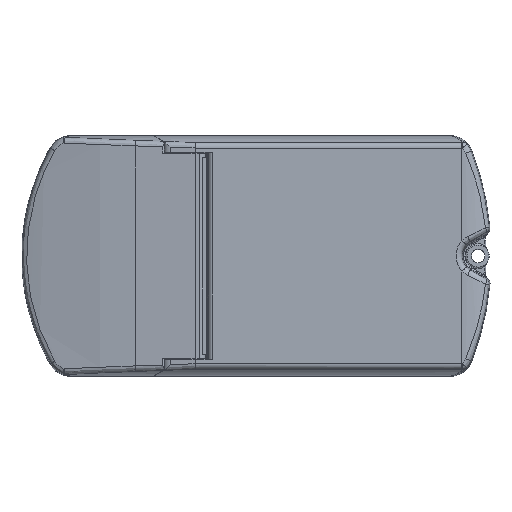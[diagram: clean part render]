
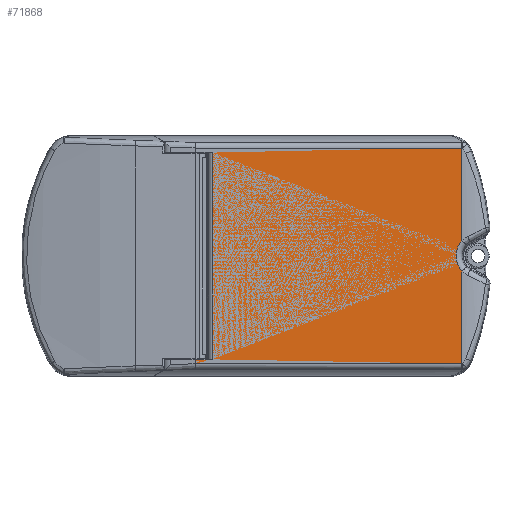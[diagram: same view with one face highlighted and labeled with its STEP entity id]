
A CAD part, top view. The second image highlights one B-rep face of the part: STEP entity #71868.
In plain terms, the highlighted planar face has unit normal (0, 0, 1).
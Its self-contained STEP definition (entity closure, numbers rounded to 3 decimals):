
#71584=DIRECTION('',(1.,0.,0.));
#71585=VECTOR('',#71584,90.7);
#71586=CARTESIAN_POINT('',(-96.2,36.75,
34.));
#71587=LINE('',#71586,#71585);
#71588=DIRECTION('',(0.,-1.,0.));
#71589=VECTOR('',#71588,31.603);
#71590=CARTESIAN_POINT('',(-5.5,36.75,
34.));
#71591=LINE('',#71590,#71589);
#71592=CARTESIAN_POINT('',(0.,0.,34.));
#71593=DIRECTION('',(0.,0.,1.));
#71594=DIRECTION('',(-0.73,0.683,0.));
#71595=AXIS2_PLACEMENT_3D('',#71592,#71593,#71594);
#71597=DIRECTION('',(0.,-1.,0.));
#71598=VECTOR('',#71597,31.603);
#71599=CARTESIAN_POINT('',(-5.5,-5.147,34.));
#71600=LINE('',#71599,#71598);
#71601=DIRECTION('',(-1.,0.,0.));
#71602=VECTOR('',#71601,90.7);
#71603=CARTESIAN_POINT('',(-5.5,-36.75,
34.));
#71604=LINE('',#71603,#71602);
#71605=DIRECTION('',(0.,1.,0.));
#71606=VECTOR('',#71605,1.458);
#71607=CARTESIAN_POINT('',(-96.2,-36.75,
34.));
#71608=LINE('',#71607,#71606);
#71609=DIRECTION('',(1.,0.,0.));
#71610=VECTOR('',#71609,5.252);
#71611=CARTESIAN_POINT('',(-96.2,-35.292,34.));
#71612=LINE('',#71611,#71610);
#71613=CARTESIAN_POINT('',(-90.948,-35.292,34.));
#71614=CARTESIAN_POINT('',(-90.916,-35.292,34.));
#71615=CARTESIAN_POINT('',(-90.852,-35.289,
34.));
#71616=CARTESIAN_POINT('',(-90.758,-35.277,
34.));
#71617=CARTESIAN_POINT('',(-90.663,-35.26,
34.));
#71618=CARTESIAN_POINT('',(-90.568,-35.24,
34.));
#71619=CARTESIAN_POINT('',(-90.473,-35.217,
34.));
#71620=CARTESIAN_POINT('',(-90.408,-35.201,
34.));
#71621=CARTESIAN_POINT('',(-90.376,-35.193,34.));
#71623=DIRECTION('',(0.,1.,0.));
#71624=VECTOR('',#71623,70.386);
#71625=CARTESIAN_POINT('',(-90.376,-35.193,34.));
#71626=LINE('',#71625,#71624);
#71627=CARTESIAN_POINT('',(-90.376,35.193,34.));
#71628=CARTESIAN_POINT('',(-90.43,35.206,
34.));
#71629=CARTESIAN_POINT('',(-90.536,35.233,
34.));
#71630=CARTESIAN_POINT('',(-90.684,35.265,
34.));
#71631=CARTESIAN_POINT('',(-90.822,35.286,
34.));
#71632=CARTESIAN_POINT('',(-90.907,35.292,34.));
#71633=CARTESIAN_POINT('',(-90.948,35.292,34.));
#71635=DIRECTION('',(-1.,0.,0.));
#71636=VECTOR('',#71635,5.252);
#71637=CARTESIAN_POINT('',(-90.948,35.292,34.));
#71638=LINE('',#71637,#71636);
#71639=DIRECTION('',(0.,1.,0.));
#71640=VECTOR('',#71639,1.458);
#71641=CARTESIAN_POINT('',(-96.2,35.292,34.));
#71642=LINE('',#71641,#71640);
#71650=CARTESIAN_POINT('',(-5.5,36.75,
34.));
#71724=CARTESIAN_POINT('',(-96.2,-36.75,
34.));
#71726=CARTESIAN_POINT('',(-5.5,-36.75,
34.));
#71799=CARTESIAN_POINT('',(-5.5,-5.147,34.));
#71800=CARTESIAN_POINT('',(-5.5,5.147,34.));
#71801=VERTEX_POINT('',#71799);
#71802=VERTEX_POINT('',#71800);
#71815=CARTESIAN_POINT('',(-90.948,35.292,34.));
#71816=CARTESIAN_POINT('',(-96.2,35.292,34.));
#71817=VERTEX_POINT('',#71815);
#71818=VERTEX_POINT('',#71816);
#71819=CARTESIAN_POINT('',(-96.2,-35.292,34.));
#71820=CARTESIAN_POINT('',(-90.948,-35.292,34.));
#71821=VERTEX_POINT('',#71819);
#71822=VERTEX_POINT('',#71820);
#71823=CARTESIAN_POINT('',(-90.376,35.193,34.));
#71824=CARTESIAN_POINT('',(-90.376,-35.193,34.));
#71825=VERTEX_POINT('',#71823);
#71826=VERTEX_POINT('',#71824);
#71827=VERTEX_POINT('',#71724);
#71829=VERTEX_POINT('',#71726);
#71831=VERTEX_POINT('',#71650);
#71833=CARTESIAN_POINT('',(-96.2,36.75,
34.));
#71835=VERTEX_POINT('',#71833);
#71837=CARTESIAN_POINT('',(-72.5,0.,34.));
#71838=DIRECTION('',(0.,0.,1.));
#71839=DIRECTION('',(-1.,0.,0.));
#71840=AXIS2_PLACEMENT_3D('',#71837,#71838,#71839);
#71841=PLANE('',#71840);
#71843=ORIENTED_EDGE('',*,*,#71842,.T.);
#71845=ORIENTED_EDGE('',*,*,#71844,.T.);
#71847=ORIENTED_EDGE('',*,*,#71846,.T.);
#71849=ORIENTED_EDGE('',*,*,#71848,.T.);
#71851=ORIENTED_EDGE('',*,*,#71850,.T.);
#71853=ORIENTED_EDGE('',*,*,#71852,.T.);
#71855=ORIENTED_EDGE('',*,*,#71854,.T.);
#71857=ORIENTED_EDGE('',*,*,#71856,.T.);
#71859=ORIENTED_EDGE('',*,*,#71858,.T.);
#71861=ORIENTED_EDGE('',*,*,#71860,.T.);
#71863=ORIENTED_EDGE('',*,*,#71862,.T.);
#71865=ORIENTED_EDGE('',*,*,#71864,.T.);
#71866=EDGE_LOOP('',(#71843,#71845,#71847,#71849,#71851,#71853,#71855,#71857,
#71859,#71861,#71863,#71865));
#71867=FACE_OUTER_BOUND('',#71866,.F.);
#71868=ADVANCED_FACE('',(#71867),#71841,.T.);
#71596=CIRCLE('',#71595,7.533);
#71622=B_SPLINE_CURVE_WITH_KNOTS('',3,(#71613,#71614,#71615,#71616,#71617,
#71618,#71619,#71620,#71621),.UNSPECIFIED.,.F.,.F.,(4,1,1,1,1,1,4),(0.,
0.167,0.333,0.5,0.667,0.833,
1.),.UNSPECIFIED.);
#71634=B_SPLINE_CURVE_WITH_KNOTS('',3,(#71627,#71628,#71629,#71630,#71631,
#71632,#71633),.UNSPECIFIED.,.F.,.F.,(4,1,1,1,4),(0.,0.25,0.5,0.75,
1.),.UNSPECIFIED.);
#71842=EDGE_CURVE('',#71835,#71831,#71587,.T.);
#71844=EDGE_CURVE('',#71831,#71802,#71591,.T.);
#71846=EDGE_CURVE('',#71802,#71801,#71596,.T.);
#71848=EDGE_CURVE('',#71801,#71829,#71600,.T.);
#71850=EDGE_CURVE('',#71829,#71827,#71604,.T.);
#71852=EDGE_CURVE('',#71827,#71821,#71608,.T.);
#71854=EDGE_CURVE('',#71821,#71822,#71612,.T.);
#71856=EDGE_CURVE('',#71822,#71826,#71622,.T.);
#71858=EDGE_CURVE('',#71826,#71825,#71626,.T.);
#71860=EDGE_CURVE('',#71825,#71817,#71634,.T.);
#71862=EDGE_CURVE('',#71817,#71818,#71638,.T.);
#71864=EDGE_CURVE('',#71818,#71835,#71642,.T.);
